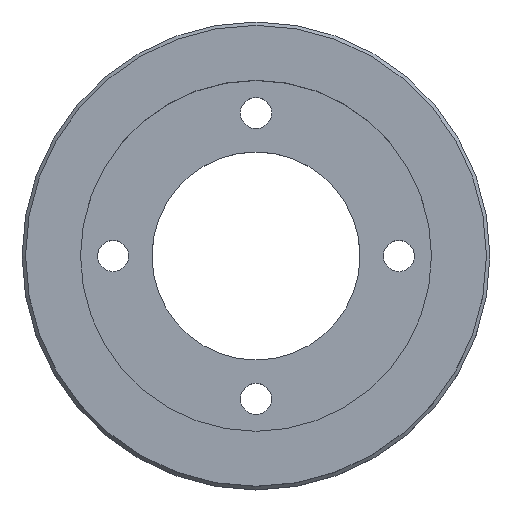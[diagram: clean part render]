
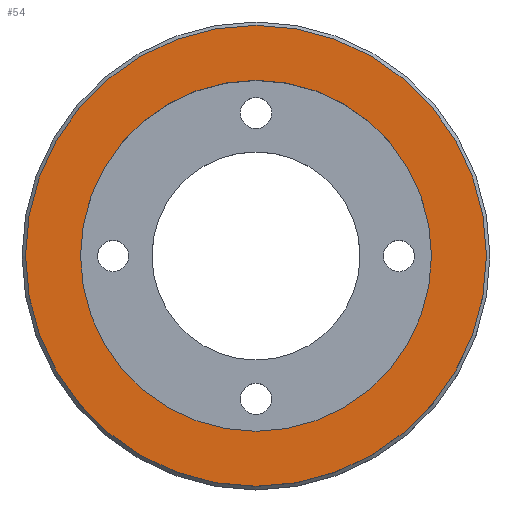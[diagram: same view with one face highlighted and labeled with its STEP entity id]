
A CAD part, top view. The second image highlights one B-rep face of the part: STEP entity #54.
In plain terms, the highlighted planar face has unit normal (0, 0, 1).
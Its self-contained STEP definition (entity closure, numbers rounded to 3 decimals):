
#54=ADVANCED_FACE('',(#76,#77),#66,.T.);
#66=PLANE('',#234);
#76=FACE_BOUND('',#110,.T.);
#77=FACE_BOUND('',#111,.T.);
#110=EDGE_LOOP('',(#144));
#111=EDGE_LOOP('',(#145));
#144=ORIENTED_EDGE('',*,*,#195,.T.);
#145=ORIENTED_EDGE('',*,*,#196,.F.);
#178=VERTEX_POINT('',#334);
#179=VERTEX_POINT('',#336);
#195=EDGE_CURVE('',#178,#178,#212,.T.);
#196=EDGE_CURVE('',#179,#179,#213,.T.);
#212=CIRCLE('',#232,13.5);
#213=CIRCLE('',#233,17.73);
#232=AXIS2_PLACEMENT_3D('',#333,#274,#275);
#233=AXIS2_PLACEMENT_3D('',#335,#276,#277);
#234=AXIS2_PLACEMENT_3D('',#337,#278,#279);
#274=DIRECTION('',(0.,0.,-1.));
#275=DIRECTION('',(-1.,0.,0.));
#276=DIRECTION('',(0.,0.,-1.));
#277=DIRECTION('',(1.,0.,0.));
#278=DIRECTION('',(0.,0.,1.));
#279=DIRECTION('',(1.,0.,0.));
#333=CARTESIAN_POINT('',(0.,0.,11.));
#334=CARTESIAN_POINT('',(-13.5,0.,11.));
#335=CARTESIAN_POINT('',(0.,0.,11.));
#336=CARTESIAN_POINT('',(17.73,0.,11.));
#337=CARTESIAN_POINT('',(0.,0.,11.));
